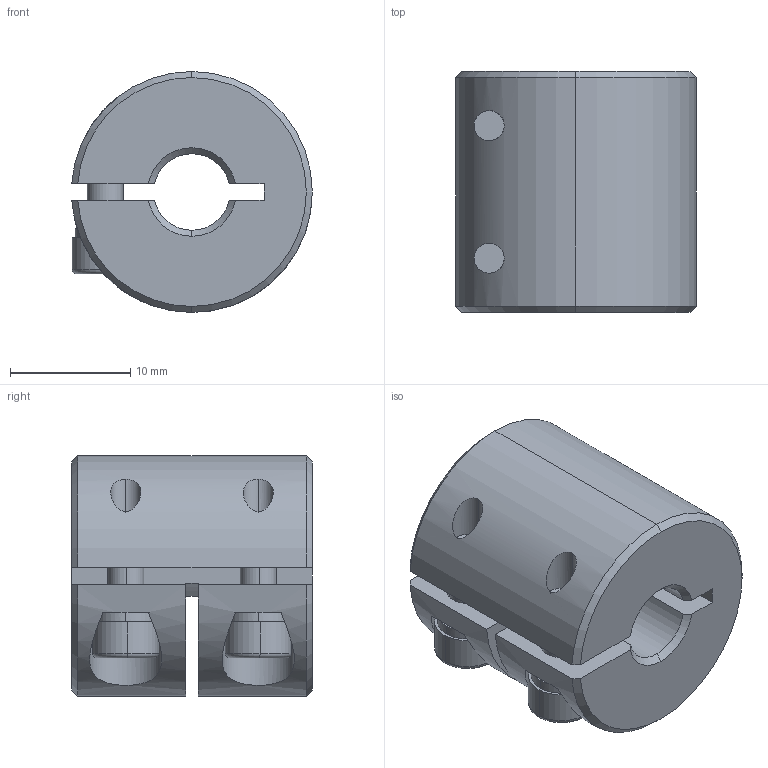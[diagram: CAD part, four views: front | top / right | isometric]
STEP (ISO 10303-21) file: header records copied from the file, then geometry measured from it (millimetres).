
FILE_DESCRIPTION (( 'STEP AP203' ), '1' );
FILE_NAME ('LL-B-D20L20-6.35-10.STEP', '2021-11-03T05:28:12', ( '' ), ( '' ), 'SwSTEP 2.0', 'SolidWorks 2018', '' );
FILE_SCHEMA (( 'CONFIG_CONTROL_DESIGN' ));
Length unit declared in the file: millimetre
Products named in the file (1): LL-B-D20L20-6.35-10
Bounding box: 19.98 x 20 x 20 mm (x, y, z)
Volume: 4721.3 mm3; surface area: 3118.2 mm2
Topology: 1 solids, 1 shells, 115 faces, 298 edges, 187 vertices
Faces by surface type: plane 53, cylinder 42, cone 16, torus 4
Entity records: 3764 total; most frequent: CARTESIAN_POINT 831, DIRECTION 625, ORIENTED_EDGE 588, EDGE_CURVE 294, AXIS2_PLACEMENT_3D 241, VERTEX_POINT 187, LINE 143, VECTOR 143
